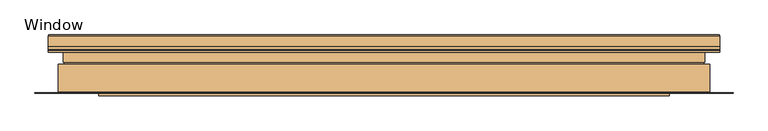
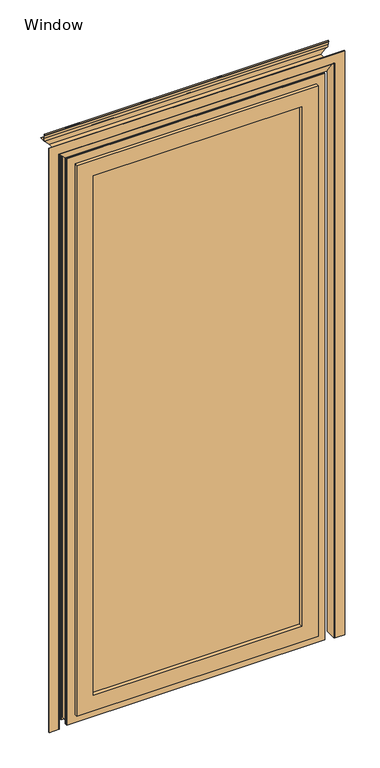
"""IFC4 building model written with IfcOpenShell, lengths in millimetres: door geometry, QO-H-QB_Door Module : Window."""

from ifc_helpers import new_model, si_unit, frame, origin, place, context, project, spatial, polyline, circle_curve, ellipse_curve, outline, extrude, faceted_brep, source, transform, mapped, element, save
from ifc_brep_helpers import plane_surface, cylinder_surface, revolved_surface, advanced_brep


def window_2f2466e1(model_context):
    return source(origin(), model_context, "Body", "SolidModel", [
        extrude(outline(polyline([(-519.485256, -85.0037561), (519.485256, -85.0037561), (519.485256, -105.0037561), (-519.485256, -105.0037561), (-519.485256, -85.0037561)])), frame((0.0, 0.0, 115.014744), z_axis=(0.0, 0.0, 1.0), x_axis=(1.0, 0.0, 0.0)), (0.0, 0.0, 1.0), 2689.970512),
        faceted_brep([(548.2021017, -67.0037561, 86.2978983), (548.2021017, -50.0037561, 86.2978983), (548.2021017, -50.0037561, 2833.7021017), (548.2021017, -67.0037561, 2833.7021017), (556.5, -50.0037561, 78.0), (556.5, -67.0037561, 78.0), (556.5, -67.0037561, 2842.0), (556.5, -50.0037561, 2842.0), (624.5, -53.8037561, 10.0), (624.5, -50.0037561, 10.0), (624.5, -50.0037561, 2910.0), (624.5, -53.8037561, 2910.0), (616.5, -57.8037561, 18.0), (616.5, -53.8037561, 18.0), (616.5, -53.8037561, 2902.0), (616.5, -57.8037561, 2902.0), (624.5, -62.1037561, 10.0), (624.5, -57.8037561, 10.0), (624.5, -57.8037561, 2910.0), (624.5, -62.1037561, 2910.0), (616.5, -97.9037561, 18.0), (616.5, -62.1037561, 18.0), (616.5, -62.1037561, 2902.0), (616.5, -97.9037561, 2902.0), (624.5, -102.2037561, 10.0), (624.5, -97.9037561, 10.0), (624.5, -97.9037561, 2910.0), (624.5, -102.2037561, 2910.0), (616.5, -106.2037561, 18.0), (616.5, -102.2037561, 18.0), (616.5, -102.2037561, 2902.0), (616.5, -106.2037561, 2902.0), (624.5, -110.0037561, 10.0), (624.5, -106.2037561, 10.0), (624.5, -106.2037561, 2910.0), (624.5, -110.0037561, 2910.0), (576.5, -98.8037561, 58.0), (576.5, -110.0037561, 58.0), (576.5, -110.0037561, 2862.0), (576.5, -98.8037561, 2862.0), (582.3127684, -62.5037561, 52.1872316), (582.3127684, -98.8037561, 52.1872316), (582.3127684, -98.8037561, 2867.8127684), (582.3127684, -62.5037561, 2867.8127684), (564.5, -114.5037561, 70.0), (564.5, -62.5037561, 70.0), (564.5, -62.5037561, 2850.0), (564.5, -114.5037561, 2850.0), (582.3127684, -110.7626496, 52.1872316), (582.3127684, -114.5037561, 52.1872316), (582.3127684, -114.5037561, 2867.8127684), (582.3127684, -110.7626496, 2867.8127684), (584.5, -124.5037561, 50.0), (584.5, -110.7626496, 50.0), (584.5, -110.7626496, 2870.0), (584.5, -124.5037561, 2870.0), (504.5, -105.0036269, 130.0), (504.5, -124.5037561, 130.0), (504.5, -124.5037561, 2790.0), (504.5, -105.0036269, 2790.0), (519.485256, -85.0036357, 115.014744), (519.485256, -105.0036269, 115.014744), (519.485256, -105.0036269, 2804.985256), (519.485256, -85.0036357, 2804.985256), (504.5, -50.0037561, 130.0), (504.5, -85.0036357, 130.0), (504.5, -85.0036357, 2790.0), (504.5, -50.0037561, 2790.0), (-548.2021017, -50.0037561, 2833.7021017), (-548.2021017, -67.0037561, 2833.7021017), (-556.5, -67.0037561, 2842.0), (-556.5, -50.0037561, 2842.0), (-624.5, -50.0037561, 2910.0), (-624.5, -53.8037561, 2910.0), (-616.5, -53.8037561, 2902.0), (-616.5, -57.8037561, 2902.0), (-624.5, -57.8037561, 2910.0), (-624.5, -62.1037561, 2910.0), (-616.5, -62.1037561, 2902.0), (-616.5, -97.9037561, 2902.0), (-624.5, -97.9037561, 2910.0), (-624.5, -102.2037561, 2910.0), (-616.5, -102.2037561, 2902.0), (-616.5, -106.2037561, 2902.0), (-624.5, -106.2037561, 2910.0), (-624.5, -110.0037561, 2910.0), (-576.5, -110.0037561, 2862.0), (-576.5, -98.8037561, 2862.0), (-582.3127684, -98.8037561, 2867.8127684), (-582.3127684, -62.5037561, 2867.8127684), (-564.5, -62.5037561, 2850.0), (-564.5, -114.5037561, 2850.0), (-582.3127684, -114.5037561, 2867.8127684), (-582.3127684, -110.7626496, 2867.8127684), (-584.5, -110.7626496, 2870.0), (-584.5, -124.5037561, 2870.0), (-504.5, -124.5037561, 2790.0), (-504.5, -105.0036269, 2790.0), (-519.485256, -105.0036269, 2804.985256), (-519.485256, -85.0036357, 2804.985256), (-504.5, -85.0036357, 2790.0), (-504.5, -50.0037561, 2790.0), (-548.2021017, -50.0037561, 86.2978983), (-548.2021017, -67.0037561, 86.2978983), (-556.5, -67.0037561, 78.0), (-556.5, -50.0037561, 78.0), (-624.5, -50.0037561, 10.0), (-624.5, -53.8037561, 10.0), (-616.5, -53.8037561, 18.0), (-616.5, -57.8037561, 18.0), (-624.5, -57.8037561, 10.0), (-624.5, -62.1037561, 10.0), (-616.5, -62.1037561, 18.0), (-616.5, -97.9037561, 18.0), (-624.5, -97.9037561, 10.0), (-624.5, -102.2037561, 10.0), (-616.5, -102.2037561, 18.0), (-616.5, -106.2037561, 18.0), (-624.5, -106.2037561, 10.0), (-624.5, -110.0037561, 10.0), (-576.5, -110.0037561, 58.0), (-576.5, -98.8037561, 58.0), (-582.3127684, -98.8037561, 52.1872316), (-582.3127684, -62.5037561, 52.1872316), (-564.5, -62.5037561, 70.0), (-564.5, -114.5037561, 70.0), (-582.3127684, -114.5037561, 52.1872316), (-582.3127684, -110.7626496, 52.1872316), (-584.5, -110.7626496, 50.0), (-584.5, -124.5037561, 50.0), (-504.5, -124.5037561, 130.0), (-504.5, -105.0036269, 130.0), (-519.485256, -105.0036269, 115.014744), (-519.485256, -85.0036357, 115.014744), (-504.5, -85.0036357, 130.0), (-504.5, -50.0037561, 130.0)], [[[0, 1, 2, 3]], [[4, 5, 6, 7]], [[8, 9, 10, 11]], [[12, 13, 14, 15]], [[16, 17, 18, 19]], [[20, 21, 22, 23]], [[24, 25, 26, 27]], [[28, 29, 30, 31]], [[32, 33, 34, 35]], [[36, 37, 38, 39]], [[40, 41, 42, 43]], [[44, 45, 46, 47]], [[48, 49, 50, 51]], [[52, 53, 54, 55]], [[56, 57, 58, 59]], [[60, 61, 62, 63]], [[64, 65, 66, 67]], [[3, 2, 68, 69]], [[7, 6, 70, 71]], [[11, 10, 72, 73]], [[15, 14, 74, 75]], [[19, 18, 76, 77]], [[23, 22, 78, 79]], [[27, 26, 80, 81]], [[31, 30, 82, 83]], [[35, 34, 84, 85]], [[39, 38, 86, 87]], [[43, 42, 88, 89]], [[47, 46, 90, 91]], [[51, 50, 92, 93]], [[55, 54, 94, 95]], [[59, 58, 96, 97]], [[63, 62, 98, 99]], [[67, 66, 100, 101]], [[69, 68, 102, 103]], [[71, 70, 104, 105]], [[73, 72, 106, 107]], [[75, 74, 108, 109]], [[77, 76, 110, 111]], [[79, 78, 112, 113]], [[81, 80, 114, 115]], [[83, 82, 116, 117]], [[85, 84, 118, 119]], [[87, 86, 120, 121]], [[89, 88, 122, 123]], [[91, 90, 124, 125]], [[93, 92, 126, 127]], [[95, 94, 128, 129]], [[97, 96, 130, 131]], [[99, 98, 132, 133]], [[101, 100, 134, 135]], [[103, 102, 1, 0]], [[5, 104, 70, 6], [3, 69, 103, 0]], [[105, 104, 5, 4]], [[9, 106, 72, 10], [7, 71, 105, 4]], [[107, 106, 9, 8]], [[11, 73, 107, 8], [13, 108, 74, 14]], [[109, 108, 13, 12]], [[17, 110, 76, 18], [15, 75, 109, 12]], [[111, 110, 17, 16]], [[19, 77, 111, 16], [21, 112, 78, 22]], [[113, 112, 21, 20]], [[25, 114, 80, 26], [23, 79, 113, 20]], [[115, 114, 25, 24]], [[27, 81, 115, 24], [29, 116, 82, 30]], [[117, 116, 29, 28]], [[33, 118, 84, 34], [31, 83, 117, 28]], [[119, 118, 33, 32]], [[35, 85, 119, 32], [37, 120, 86, 38]], [[121, 120, 37, 36]], [[41, 122, 88, 42], [39, 87, 121, 36]], [[123, 122, 41, 40]], [[43, 89, 123, 40], [45, 124, 90, 46]], [[125, 124, 45, 44]], [[49, 126, 92, 50], [47, 91, 125, 44]], [[127, 126, 49, 48]], [[53, 128, 94, 54], [51, 93, 127, 48]], [[129, 128, 53, 52]], [[55, 95, 129, 52], [57, 130, 96, 58]], [[131, 130, 57, 56]], [[61, 132, 98, 62], [59, 97, 131, 56]], [[133, 132, 61, 60]], [[63, 99, 133, 60], [65, 134, 100, 66]], [[135, 134, 65, 64]], [[1, 102, 68, 2], [67, 101, 135, 64]]]),
        advanced_brep(
        [(687.5, -24.5, 2973.0), (687.5, -24.5, 2991.5), (687.5, -30.1, 2991.5), (687.5, -30.9804507, 3008.3), (687.5, -35.9804507, 3008.3), (687.5, -35.9804507, 3004.3), (687.5, -34.974409, 3004.3), (687.5, -34.5971452, 3006.8), (687.5, -32.5971452, 3006.8), (687.5, -32.0, 2989.7), (687.5, -26.3, 2989.7), (687.5, -26.3, 2973.0), (-687.5, -26.3, 2989.7), (-687.5, -32.0, 2989.7), (-687.5, -32.5971452, 3006.8), (-687.5, -34.5971452, 3006.8), (-687.5, -34.974409, 3004.3), (-687.5, -35.9804507, 3004.3), (-687.5, -35.9804507, 3008.3), (-687.5, -30.9804507, 3008.3), (-687.5, -30.1, 2991.5), (-687.5, -24.5, 2991.5), (-687.5, -24.5, 2973.0), (-687.5, -26.3, 2973.0), (-654.4523452, -75.0037405, 2939.9523452), (-654.4523452, -84.0037561, 2939.9523452), (654.4523452, -84.0037561, 2939.9523452), (654.4523452, -75.0037405, 2939.9523452), (-658.0018295, -84.0037561, 2943.5018295), (658.0018295, -84.0037561, 2943.5018295), (-658.0018295, -82.8037561, 2943.5018295), (658.0018295, -82.8037561, 2943.5018295), (-659.5018295, -82.8037561, 2945.0018295), (659.5018295, -82.8037561, 2945.0018295), (-659.5018295, -89.5037561, 2945.0018295), (659.5018295, -89.5037561, 2945.0018295), (-658.0018295, -89.5037561, 2943.5018295), (658.0018295, -89.5037561, 2943.5018295), (-658.0018295, -85.7037561, 2943.5018295), (658.0018295, -85.7037561, 2943.5018295), (-654.7018295, -85.7037561, 2940.2018295), (654.7018295, -85.7037561, 2940.2018295), (-654.7018295, -108.3037561, 2940.2018295), (654.7018295, -108.3037561, 2940.2018295), (-658.0018295, -108.3037561, 2943.5018295), (658.0018295, -108.3037561, 2943.5018295), (-658.0018295, -105.5037561, 2943.5018295), (658.0018295, -105.5037561, 2943.5018295), (-659.5018295, -105.5037561, 2945.0018295), (659.5018295, -105.5037561, 2945.0018295), (-659.5018295, -110.0037561, 2945.0018295), (659.5018295, -110.0037561, 2945.0018295), (-631.5018295, -110.0037561, 2917.0018295), (631.5018295, -110.0037561, 2917.0018295), (-631.5018295, -105.5037561, 2917.0018295), (631.5018295, -105.5037561, 2917.0018295), (-633.0018295, -105.5037561, 2918.5018295), (633.0018295, -105.5037561, 2918.5018295), (-633.0018295, -108.3037561, 2918.5018295), (633.0018295, -108.3037561, 2918.5018295), (-636.3018295, -108.3037561, 2921.8018295), (636.3018295, -108.3037561, 2921.8018295), (-636.3018295, -85.7037561, 2921.8018295), (636.3018295, -85.7037561, 2921.8018295), (-633.0018295, -85.7037561, 2918.5018295), (633.0018295, -85.7037561, 2918.5018295), (-633.0018295, -89.5037561, 2918.5018295), (633.0018295, -89.5037561, 2918.5018295), (-631.5018295, -89.5037561, 2917.0018295), (631.5018295, -89.5037561, 2917.0018295), (-631.5018295, -82.8037561, 2917.0018295), (631.5018295, -82.8037561, 2917.0018295), (-633.0018295, -82.8037561, 2918.5018295), (633.0018295, -82.8037561, 2918.5018295), (-633.0018295, -84.0037561, 2918.5018295), (633.0018295, -84.0037561, 2918.5018295), (-636.5513139, -84.0037561, 2922.0513139), (636.5513139, -84.0037561, 2922.0513139), (-636.5513139, -75.0037405, 2922.0513139), (636.5513139, -75.0037405, 2922.0513139), (-633.0513133, -75.0037405, 2918.5513133), (633.0513133, -75.0037405, 2918.5513133), (-633.0513133, -76.5037405, 2918.5513133), (633.0513133, -76.5037405, 2918.5513133), (-631.5513133, -76.5037405, 2917.0513133), (631.5513133, -76.5037405, 2917.0513133), (-631.5513133, -72.6037405, 2917.0513133), (631.5513133, -72.6037405, 2917.0513133), (-633.0513133, -72.6037405, 2918.5513133), (633.0513133, -72.6037405, 2918.5513133), (-633.0513133, -73.8037405, 2918.5513133), (633.0513133, -73.8037405, 2918.5513133), (-636.5513133, -73.8037405, 2922.0513133), (636.5513133, -73.8037405, 2922.0513133), (-636.5513133, -65.7037405, 2922.0513133), (636.5513133, -65.7037405, 2922.0513133), (-633.0513133, -65.7037405, 2918.5513133), (633.0513133, -65.7037405, 2918.5513133), (-633.0513133, -66.9037405, 2918.5513133), (633.0513133, -66.9037405, 2918.5513133), (-631.5513133, -66.9037405, 2917.0513133), (631.5513133, -66.9037405, 2917.0513133), (-631.5513133, -63.0037405, 2917.0513133), (631.5513133, -63.0037405, 2917.0513133), (-633.0513133, -63.0037405, 2918.5513133), (633.0513133, -63.0037405, 2918.5513133), (-633.0513133, -64.5037405, 2918.5513133), (633.0513133, -64.5037405, 2918.5513133), (-636.5, -64.5037405, 2922.0), (636.5, -64.5037405, 2922.0), (-636.5, -49.6, 2922.0), (636.5, -49.6, 2922.0), (-639.8, -49.6, 2925.3), (639.8, -49.6, 2925.3), (-639.8, -51.0, 2925.3), (639.8, -51.0, 2925.3), (-637.9, -51.0, 2923.4), (637.9, -51.0, 2923.4), (-637.9, -54.0, 2923.4), (637.9, -54.0, 2923.4), (-643.3, -54.0, 2928.8), (643.3, -54.0, 2928.8), (-643.3, -43.5, 2928.8), (643.3, -43.5, 2928.8), (-629.5, -43.5, 2915.0), (629.5, -43.5, 2915.0), (-629.5, -2.0, 2915.0), (629.5, -2.0, 2915.0), (-631.5, 0.0, 2917.0), (631.5, 0.0, 2917.0), (-685.5, 0.0, 2971.0), (685.5, 0.0, 2971.0), (-687.5, -2.0, 2973.0), (687.5, -2.0, 2973.0), (-685.5, -26.3, 2971.0), (685.5, -26.3, 2971.0), (-685.5, -22.4, 2971.0), (685.5, -22.4, 2971.0), (-657.3, -22.4, 2942.8), (657.3, -22.4, 2942.8), (-657.3, -55.4999986, 2942.8), (657.3, -55.4999986, 2942.8), (-654.4523459, -55.4999986, 2939.9523459), (654.4523459, -55.4999986, 2939.9523459), (-654.4523459, -64.5037405, 2939.9523459), (654.4523459, -64.5037405, 2939.9523459), (-657.9523458, -64.5037405, 2943.4523458), (657.9523458, -64.5037405, 2943.4523458), (-657.9523458, -63.0037405, 2943.4523458), (657.9523458, -63.0037405, 2943.4523458), (-659.4523458, -63.0037405, 2944.9523458), (659.4523458, -63.0037405, 2944.9523458), (-659.4523458, -66.9037405, 2944.9523458), (659.4523458, -66.9037405, 2944.9523458), (-657.9523458, -66.9037405, 2943.4523458), (657.9523458, -66.9037405, 2943.4523458), (-657.9523458, -65.7037405, 2943.4523458), (657.9523458, -65.7037405, 2943.4523458), (-654.4523458, -65.7037405, 2939.9523458), (654.4523458, -65.7037405, 2939.9523458), (-654.4523458, -73.8037405, 2939.9523458), (654.4523458, -73.8037405, 2939.9523458), (-657.9523458, -73.8037405, 2943.4523458), (657.9523458, -73.8037405, 2943.4523458), (-657.9523458, -72.6037405, 2943.4523458), (657.9523458, -72.6037405, 2943.4523458), (-659.4523458, -72.6037405, 2944.9523458), (659.4523458, -72.6037405, 2944.9523458), (-659.4523458, -76.5037405, 2944.9523458), (659.4523458, -76.5037405, 2944.9523458), (-657.9523458, -76.5037405, 2943.4523458), (657.9523458, -76.5037405, 2943.4523458), (-657.9523458, -75.0037405, 2943.4523458), (657.9523458, -75.0037405, 2943.4523458), (-657.3, -1.5, 2942.8), (-657.3, -20.7, 2942.8), (657.3, -20.7, 2942.8), (657.3, -1.5, 2942.8), (-686.0, -20.7, 2971.5), (686.0, -20.7, 2971.5), (-686.0, -1.5, 2971.5), (686.0, -1.5, 2971.5), (-645.3, -41.5, 2930.8), (-645.3, -54.0, 2930.8), (645.3, -54.0, 2930.8), (645.3, -41.5, 2930.8), (-655.6, -54.0, 2941.1), (655.6, -54.0, 2941.1), (-655.6, -1.5, 2941.1), (655.6, -1.5, 2941.1), (-631.2, -1.5, 2916.7), (631.2, -1.5, 2916.7), (-631.2, -41.5, 2916.7), (631.2, -41.5, 2916.7), (-638.2018295, -108.3037561, 2923.7018295), (-652.8018295, -108.3037561, 2938.3018295), (652.8018295, -108.3037561, 2938.3018295), (638.2018295, -108.3037561, 2923.7018295), (-652.8018295, -85.7037561, 2938.3018295), (652.8018295, -85.7037561, 2938.3018295), (-638.2018295, -85.7037561, 2923.7018295), (638.2018295, -85.7037561, 2923.7018295)],
        [
            (0, 1),
            (1, 2),
            (2, 3),
            (3, 4),
            (4, 5),
            (5, 6),
            (6, 7),
            (7, 8),
            (8, 9),
            (9, 10),
            (10, 11),
            (11, 0),
            (12, 13),
            (13, 14),
            (14, 15),
            (15, 16),
            (16, 17),
            (17, 18),
            (18, 19),
            (19, 20),
            (20, 21),
            (21, 22),
            (22, 23),
            (23, 12),
            (24, 25),
            (25, 26),
            (26, 27),
            (27, 24),
            (25, 28),
            (28, 29),
            (29, 26),
            (28, 30),
            (30, 31),
            (31, 29),
            (30, 32),
            (32, 33),
            (33, 31),
            (32, 34),
            (34, 35),
            (35, 33),
            (34, 36),
            (36, 37),
            (37, 35),
            (36, 38),
            (38, 39),
            (39, 37),
            (38, 40),
            (40, 41),
            (41, 39),
            (40, 42),
            (42, 43),
            (43, 41),
            (42, 44),
            (44, 45),
            (45, 43),
            (44, 46),
            (46, 47),
            (47, 45),
            (46, 48),
            (48, 49),
            (49, 47),
            (48, 50),
            (50, 51),
            (51, 49),
            (50, 52),
            (52, 53),
            (53, 51),
            (52, 54),
            (54, 55),
            (55, 53),
            (54, 56),
            (56, 57),
            (57, 55),
            (56, 58),
            (58, 59),
            (59, 57),
            (58, 60),
            (60, 61),
            (61, 59),
            (60, 62),
            (62, 63),
            (63, 61),
            (62, 64),
            (64, 65),
            (65, 63),
            (64, 66),
            (66, 67),
            (67, 65),
            (66, 68),
            (68, 69),
            (69, 67),
            (68, 70),
            (70, 71),
            (71, 69),
            (70, 72),
            (72, 73),
            (73, 71),
            (72, 74),
            (74, 75),
            (75, 73),
            (74, 76),
            (76, 77),
            (77, 75),
            (76, 78),
            (78, 79),
            (79, 77),
            (78, 80),
            (80, 81),
            (81, 79),
            (80, 82),
            (82, 83),
            (83, 81),
            (82, 84),
            (84, 85),
            (85, 83),
            (84, 86),
            (86, 87),
            (87, 85),
            (86, 88),
            (88, 89),
            (89, 87),
            (88, 90),
            (90, 91),
            (91, 89),
            (90, 92),
            (92, 93),
            (93, 91),
            (92, 94),
            (94, 95),
            (95, 93),
            (94, 96),
            (96, 97),
            (97, 95),
            (96, 98),
            (98, 99),
            (99, 97),
            (98, 100),
            (100, 101),
            (101, 99),
            (100, 102),
            (102, 103),
            (103, 101),
            (102, 104),
            (104, 105),
            (105, 103),
            (104, 106),
            (106, 107),
            (107, 105),
            (106, 108),
            (108, 109),
            (109, 107),
            (108, 110),
            (110, 111),
            (111, 109),
            (110, 112),
            (112, 113),
            (113, 111),
            (112, 114),
            (114, 115),
            (115, 113),
            (114, 116),
            (116, 117),
            (117, 115),
            (116, 118),
            (118, 119),
            (119, 117),
            (118, 120),
            (120, 121),
            (121, 119),
            (120, 122),
            (122, 123),
            (123, 121),
            (122, 124),
            (124, 125),
            (125, 123),
            (124, 126),
            (126, 127),
            (127, 125),
            (126, 128, ellipse_curve(frame((-631.5, -2.0, 2917.0), z_axis=(0.7071067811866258, 0.0, 0.7071067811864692), x_axis=(0.7071067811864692, 0.0, -0.7071067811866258)), 2.8284271, 2.0)),
            (128, 129),
            (129, 127, ellipse_curve(frame((631.5, -2.0, 2917.0), z_axis=(-0.7071067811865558, 0.0, 0.7071067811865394), x_axis=(0.7071067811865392, 0.0, 0.7071067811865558)), 2.8284271, 2.0)),
            (128, 130),
            (130, 131),
            (131, 129),
            (132, 133),
            (133, 131, ellipse_curve(frame((685.5, -2.0, 2971.0), z_axis=(-0.7071067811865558, 0.0, 0.7071067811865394), x_axis=(0.7071067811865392, 0.0, 0.7071067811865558)), 2.8284271, 2.0)),
            (130, 132, ellipse_curve(frame((-685.5, -2.0, 2971.0), z_axis=(0.7071067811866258, 0.0, 0.7071067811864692), x_axis=(0.7071067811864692, 0.0, -0.7071067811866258)), 2.8284271, 2.0)),
            (132, 22),
            (22, 0),
            (0, 133),
            (21, 1),
            (20, 2),
            (19, 3),
            (18, 4),
            (17, 5),
            (16, 6),
            (15, 7),
            (14, 8),
            (13, 9),
            (12, 10),
            (23, 134),
            (134, 135),
            (135, 11),
            (134, 136),
            (136, 137),
            (137, 135),
            (136, 138),
            (138, 139),
            (139, 137),
            (138, 140),
            (140, 141),
            (141, 139),
            (140, 142),
            (142, 143),
            (143, 141),
            (142, 144),
            (144, 145),
            (145, 143),
            (144, 146),
            (146, 147),
            (147, 145),
            (146, 148),
            (148, 149),
            (149, 147),
            (148, 150),
            (150, 151),
            (151, 149),
            (150, 152),
            (152, 153),
            (153, 151),
            (152, 154),
            (154, 155),
            (155, 153),
            (154, 156),
            (156, 157),
            (157, 155),
            (156, 158),
            (158, 159),
            (159, 157),
            (158, 160),
            (160, 161),
            (161, 159),
            (160, 162),
            (162, 163),
            (163, 161),
            (162, 164),
            (164, 165),
            (165, 163),
            (164, 166),
            (166, 167),
            (167, 165),
            (166, 168),
            (168, 169),
            (169, 167),
            (168, 170),
            (170, 171),
            (171, 169),
            (170, 172),
            (172, 173),
            (173, 171),
            (172, 24),
            (27, 173),
            (174, 175),
            (175, 176),
            (176, 177),
            (177, 174),
            (175, 178),
            (178, 179),
            (179, 176),
            (178, 180),
            (180, 181),
            (181, 179),
            (180, 174),
            (177, 181),
            (182, 183),
            (183, 184),
            (184, 185),
            (185, 182),
            (183, 186),
            (186, 187),
            (187, 184),
            (186, 188),
            (188, 189),
            (189, 187),
            (188, 190),
            (190, 191),
            (191, 189),
            (190, 192),
            (192, 193),
            (193, 191),
            (192, 182),
            (185, 193),
            (194, 195),
            (195, 196),
            (196, 197),
            (197, 194),
            (195, 198),
            (198, 199),
            (199, 196),
            (198, 200),
            (200, 201),
            (201, 199),
            (200, 194),
            (197, 201),
        ],
        [
            plane_surface(frame((687.5, 0.0, 3000.0), z_axis=(1.0, 0.0, 0.0), x_axis=(0.0, -1.0, 0.0))),
            plane_surface(frame((-687.5, 0.0, 3000.0), z_axis=(-1.0, 0.0, 0.0), x_axis=(0.0, -1.0, 0.0))),
            plane_surface(frame((687.5, -75.0037405, 2939.9523452), z_axis=(0.0, 0.0, 1.0), x_axis=(-1.0, 0.0, 0.0))),
            plane_surface(frame((687.5, -84.0037561, 2939.9523452), z_axis=(0.0, 1.0, 0.0), x_axis=(-1.0, 0.0, 0.0))),
            plane_surface(frame((687.5, -84.0037561, 2943.5018295), z_axis=(0.0, 0.0, -1.0), x_axis=(-1.0, 0.0, 0.0))),
            plane_surface(frame((687.5, -82.8037561, 2943.5018295), z_axis=(0.0, 1.0, 0.0), x_axis=(-1.0, 0.0, 0.0))),
            plane_surface(frame((687.5, -82.8037561, 2945.0018295), z_axis=(0.0, 0.0, 1.0), x_axis=(-1.0, 0.0, 0.0))),
            plane_surface(frame((687.5, -89.5037561, 2945.0018295), z_axis=(0.0, -1.0, 0.0), x_axis=(-1.0, 0.0, 0.0))),
            plane_surface(frame((687.5, -89.5037561, 2943.5018295), z_axis=(0.0, 0.0, -1.0), x_axis=(-1.0, 0.0, 0.0))),
            plane_surface(frame((687.5, -85.7037561, 2943.5018295), z_axis=(0.0, -1.0, 0.0), x_axis=(-1.0, 0.0, 0.0))),
            plane_surface(frame((687.5, -85.7037561, 2940.2018295), z_axis=(0.0, 0.0, 1.0), x_axis=(-1.0, 0.0, 0.0))),
            plane_surface(frame((687.5, -108.3037561, 2940.2018295), z_axis=(0.0, 1.0, 0.0), x_axis=(-1.0, 0.0, 0.0))),
            plane_surface(frame((687.5, -108.3037561, 2943.5018295), z_axis=(0.0, 0.0, -1.0), x_axis=(-1.0, 0.0, 0.0))),
            plane_surface(frame((687.5, -105.5037561, 2943.5018295), z_axis=(0.0, 1.0, 0.0), x_axis=(-1.0, 0.0, 0.0))),
            plane_surface(frame((687.5, -105.5037561, 2945.0018295), z_axis=(0.0, 0.0, 1.0), x_axis=(-1.0, 0.0, 0.0))),
            plane_surface(frame((687.5, -110.0037561, 2945.0018295), z_axis=(0.0, -1.0, 0.0), x_axis=(-1.0, 0.0, 0.0))),
            plane_surface(frame((687.5, -110.0037561, 2917.0018295), z_axis=(0.0, 0.0, -1.0), x_axis=(-1.0, 0.0, 0.0))),
            plane_surface(frame((687.5, -105.5037561, 2917.0018295), z_axis=(0.0, 1.0, 0.0), x_axis=(-1.0, 0.0, 0.0))),
            plane_surface(frame((687.5, -105.5037561, 2918.5018295), z_axis=(0.0, 0.0, 1.0), x_axis=(-1.0, 0.0, 0.0))),
            plane_surface(frame((687.5, -108.3037561, 2918.5018295), z_axis=(0.0, 1.0, 0.0), x_axis=(-1.0, 0.0, 0.0))),
            plane_surface(frame((687.5, -108.3037561, 2921.8018295), z_axis=(0.0, 0.0, -1.0), x_axis=(-1.0, 0.0, 0.0))),
            plane_surface(frame((687.5, -85.7037561, 2921.8018295), z_axis=(0.0, -1.0, 0.0), x_axis=(-1.0, 0.0, 0.0))),
            plane_surface(frame((687.5, -85.7037561, 2918.5018295), z_axis=(0.0, 0.0, 1.0), x_axis=(-1.0, 0.0, 0.0))),
            plane_surface(frame((687.5, -89.5037561, 2918.5018295), z_axis=(0.0, -1.0, 0.0), x_axis=(-1.0, 0.0, 0.0))),
            plane_surface(frame((687.5, -89.5037561, 2917.0018295), z_axis=(0.0, 0.0, -1.0), x_axis=(-1.0, 0.0, 0.0))),
            plane_surface(frame((687.5, -82.8037561, 2917.0018295), z_axis=(0.0, 1.0, 0.0), x_axis=(-1.0, 0.0, 0.0))),
            plane_surface(frame((687.5, -82.8037561, 2918.5018295), z_axis=(0.0, 0.0, 1.0), x_axis=(-1.0, 0.0, 0.0))),
            plane_surface(frame((687.5, -84.0037561, 2918.5018295), z_axis=(0.0, 1.0, 0.0), x_axis=(-1.0, 0.0, 0.0))),
            plane_surface(frame((687.5, -84.0037561, 2922.0513139), z_axis=(0.0, 0.0, -1.0), x_axis=(-1.0, 0.0, 0.0))),
            plane_surface(frame((687.5, -75.0037405, 2922.0513139), z_axis=(0.0, -1.0, 0.0), x_axis=(-1.0, 0.0, 0.0))),
            plane_surface(frame((687.5, -75.0037405, 2918.5513133), z_axis=(0.0, 0.0, 1.0), x_axis=(-1.0, 0.0, 0.0))),
            plane_surface(frame((687.5, -76.5037405, 2918.5513133), z_axis=(0.0, -1.0, 0.0), x_axis=(-1.0, 0.0, 0.0))),
            plane_surface(frame((687.5, -76.5037405, 2917.0513133), z_axis=(0.0, 0.0, -1.0), x_axis=(-1.0, 0.0, 0.0))),
            plane_surface(frame((687.5, -72.6037405, 2917.0513133), z_axis=(0.0, 1.0, 0.0), x_axis=(-1.0, 0.0, 0.0))),
            plane_surface(frame((687.5, -72.6037405, 2918.5513133), z_axis=(0.0, 0.0, 1.0), x_axis=(-1.0, 0.0, 0.0))),
            plane_surface(frame((687.5, -73.8037405, 2918.5513133), z_axis=(0.0, 1.0, 0.0), x_axis=(-1.0, 0.0, 0.0))),
            plane_surface(frame((687.5, -73.8037405, 2922.0513133), z_axis=(0.0, 0.0, -1.0), x_axis=(-1.0, 0.0, 0.0))),
            plane_surface(frame((687.5, -65.7037405, 2922.0513133), z_axis=(0.0, -1.0, 0.0), x_axis=(-1.0, 0.0, 0.0))),
            plane_surface(frame((687.5, -65.7037405, 2918.5513133), z_axis=(0.0, 0.0, 1.0), x_axis=(-1.0, 0.0, 0.0))),
            plane_surface(frame((687.5, -66.9037405, 2918.5513133), z_axis=(0.0, -1.0, 0.0), x_axis=(-1.0, 0.0, 0.0))),
            plane_surface(frame((687.5, -66.9037405, 2917.0513133), z_axis=(0.0, 0.0, -1.0), x_axis=(-1.0, 0.0, 0.0))),
            plane_surface(frame((687.5, -63.0037405, 2917.0513133), z_axis=(0.0, 1.0, 0.0), x_axis=(-1.0, 0.0, 0.0))),
            plane_surface(frame((687.5, -63.0037405, 2918.5513133), z_axis=(0.0, 0.0, 1.0), x_axis=(-1.0, 0.0, 0.0))),
            plane_surface(frame((687.5, -64.5037405, 2918.5513133), z_axis=(0.0, 1.0, 0.0), x_axis=(-1.0, 0.0, 0.0))),
            plane_surface(frame((687.5, -64.5037405, 2922.0), z_axis=(0.0, 0.0, -1.0), x_axis=(-1.0, 0.0, 0.0))),
            plane_surface(frame((687.5, -49.6, 2922.0), z_axis=(0.0, 1.0, 0.0), x_axis=(-1.0, 0.0, 0.0))),
            plane_surface(frame((687.5, -49.6, 2925.3), z_axis=(0.0, 0.0, 1.0), x_axis=(-1.0, 0.0, 0.0))),
            plane_surface(frame((687.5, -51.0, 2925.3), z_axis=(0.0, -1.0, 0.0), x_axis=(-1.0, 0.0, 0.0))),
            plane_surface(frame((687.5, -51.0, 2923.4), z_axis=(0.0, 0.0, 1.0), x_axis=(-1.0, 0.0, 0.0))),
            plane_surface(frame((687.5, -54.0, 2923.4), z_axis=(0.0, 1.0, 0.0), x_axis=(-1.0, 0.0, 0.0))),
            plane_surface(frame((687.5, -54.0, 2928.8), z_axis=(0.0, 0.0, -1.0), x_axis=(-1.0, 0.0, 0.0))),
            plane_surface(frame((687.5, -43.5, 2928.8), z_axis=(0.0, -1.0, 0.0), x_axis=(-1.0, 0.0, 0.0))),
            plane_surface(frame((687.5, -43.5, 2915.0), z_axis=(0.0, 0.0, -1.0), x_axis=(-1.0, 0.0, 0.0))),
            cylinder_surface(frame((687.5, -2.0, 2917.0), z_axis=(1.0, 0.0, 0.0), x_axis=(0.0, -1.0, 0.0)), 2.0),
            plane_surface(frame((687.5, 0.0, 2917.0), z_axis=(0.0, 1.0, 0.0), x_axis=(-1.0, 0.0, 0.0))),
            cylinder_surface(frame((687.5, -2.0, 2971.0), z_axis=(1.0, 0.0, 0.0), x_axis=(0.0, -1.0, 0.0)), 2.0),
            plane_surface(frame((687.5, -2.0, 2973.0), z_axis=(0.0, 0.0, 1.0), x_axis=(-1.0, 0.0, 0.0))),
            plane_surface(frame((687.5, -24.5, 2973.0), z_axis=(0.0, 1.0, 0.0), x_axis=(-1.0, 0.0, 0.0))),
            plane_surface(frame((687.5, -24.5, 2991.5), z_axis=(0.0, 0.0, 1.0), x_axis=(-1.0, 0.0, 0.0))),
            plane_surface(frame((687.5, -30.1, 2991.5), z_axis=(0.0, 0.9986295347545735, 0.05233595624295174), x_axis=(-1.0, 0.0, 0.0))),
            plane_surface(frame((687.5, -30.9804507, 3008.3), z_axis=(0.0, 0.0, 1.0), x_axis=(-1.0, 0.0, 0.0))),
            plane_surface(frame((687.5, -35.9804507, 3008.3), z_axis=(0.0, -1.0, 0.0), x_axis=(-1.0, 0.0, 0.0))),
            plane_surface(frame((687.5, -35.9804507, 3004.3), z_axis=(0.0, 0.0, -1.0), x_axis=(-1.0, 0.0, 0.0))),
            plane_surface(frame((687.5, -34.974409, 3004.3), z_axis=(0.0, 0.9888046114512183, -0.14921608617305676), x_axis=(-1.0, 0.0, 0.0))),
            plane_surface(frame((687.5, -34.5971452, 3006.8), z_axis=(0.0, 0.0, -1.0), x_axis=(-1.0, 0.0, 0.0))),
            plane_surface(frame((687.5, -32.5971452, 3006.8), z_axis=(0.0, -0.9993908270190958, -0.0348994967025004), x_axis=(-1.0, 0.0, 0.0))),
            plane_surface(frame((687.5, -32.0, 2989.7), z_axis=(0.0, 0.0, -1.0), x_axis=(-1.0, 0.0, 0.0))),
            plane_surface(frame((687.5, -26.3, 2989.7), z_axis=(0.0, -1.0, 0.0), x_axis=(-1.0, 0.0, 0.0))),
            plane_surface(frame((687.5, -26.3, 2971.0), z_axis=(0.0, 0.0, -1.0), x_axis=(-1.0, 0.0, 0.0))),
            plane_surface(frame((687.5, -22.4, 2971.0), z_axis=(0.0, -1.0, 0.0), x_axis=(-1.0, 0.0, 0.0))),
            plane_surface(frame((687.5, -22.4, 2942.8), z_axis=(0.0, 0.0, 1.0), x_axis=(-1.0, 0.0, 0.0))),
            plane_surface(frame((687.5, -55.4999986, 2942.8), z_axis=(0.0, -1.0, 0.0), x_axis=(-1.0, 0.0, 0.0))),
            plane_surface(frame((687.5, -55.4999986, 2939.9523459), z_axis=(0.0, 0.0, 1.0), x_axis=(-1.0, 0.0, 0.0))),
            plane_surface(frame((687.5, -64.5037405, 2939.9523459), z_axis=(0.0, 1.0, 0.0), x_axis=(-1.0, 0.0, 0.0))),
            plane_surface(frame((687.5, -64.5037405, 2943.4523458), z_axis=(0.0, 0.0, -1.0), x_axis=(-1.0, 0.0, 0.0))),
            plane_surface(frame((687.5, -63.0037405, 2943.4523458), z_axis=(0.0, 1.0, 0.0), x_axis=(-1.0, 0.0, 0.0))),
            plane_surface(frame((687.5, -63.0037405, 2944.9523458), z_axis=(0.0, 0.0, 1.0), x_axis=(-1.0, 0.0, 0.0))),
            plane_surface(frame((687.5, -66.9037405, 2944.9523458), z_axis=(0.0, -1.0, 0.0), x_axis=(-1.0, 0.0, 0.0))),
            plane_surface(frame((687.5, -66.9037405, 2943.4523458), z_axis=(0.0, 0.0, -1.0), x_axis=(-1.0, 0.0, 0.0))),
            plane_surface(frame((687.5, -65.7037405, 2943.4523458), z_axis=(0.0, -1.0, 0.0), x_axis=(-1.0, 0.0, 0.0))),
            plane_surface(frame((687.5, -65.7037405, 2939.9523458), z_axis=(0.0, 0.0, 1.0), x_axis=(-1.0, 0.0, 0.0))),
            plane_surface(frame((687.5, -73.8037405, 2939.9523458), z_axis=(0.0, 1.0, 0.0), x_axis=(-1.0, 0.0, 0.0))),
            plane_surface(frame((687.5, -73.8037405, 2943.4523458), z_axis=(0.0, 0.0, -1.0), x_axis=(-1.0, 0.0, 0.0))),
            plane_surface(frame((687.5, -72.6037405, 2943.4523458), z_axis=(0.0, 1.0, 0.0), x_axis=(-1.0, 0.0, 0.0))),
            plane_surface(frame((687.5, -72.6037405, 2944.9523458), z_axis=(0.0, 0.0, 1.0), x_axis=(-1.0, 0.0, 0.0))),
            plane_surface(frame((687.5, -76.5037405, 2944.9523458), z_axis=(0.0, -1.0, 0.0), x_axis=(-1.0, 0.0, 0.0))),
            plane_surface(frame((687.5, -76.5037405, 2943.4523458), z_axis=(0.0, 0.0, -1.0), x_axis=(-1.0, 0.0, 0.0))),
            plane_surface(frame((687.5, -75.0037405, 2943.4523458), z_axis=(0.0, -1.0, 0.0), x_axis=(-1.0, 0.0, 0.0))),
            plane_surface(frame((687.5, -1.5, 2942.8), z_axis=(0.0, 0.0, 1.0), x_axis=(-1.0, 0.0, 0.0))),
            plane_surface(frame((687.5, -20.7, 2942.8), z_axis=(0.0, 1.0, 0.0), x_axis=(-1.0, 0.0, 0.0))),
            plane_surface(frame((687.5, -20.7, 2971.5), z_axis=(0.0, 0.0, -1.0), x_axis=(-1.0, 0.0, 0.0))),
            plane_surface(frame((687.5, -1.5, 2971.5), z_axis=(0.0, -1.0, 0.0), x_axis=(-1.0, 0.0, 0.0))),
            plane_surface(frame((687.5, -41.5, 2930.8), z_axis=(0.0, 0.0, 1.0), x_axis=(-1.0, 0.0, 0.0))),
            plane_surface(frame((687.5, -54.0, 2930.8), z_axis=(0.0, 1.0, 0.0), x_axis=(-1.0, 0.0, 0.0))),
            plane_surface(frame((687.5, -54.0, 2941.1), z_axis=(0.0, 0.0, -1.0), x_axis=(-1.0, 0.0, 0.0))),
            plane_surface(frame((687.5, -1.5, 2941.1), z_axis=(0.0, -1.0, 0.0), x_axis=(-1.0, 0.0, 0.0))),
            plane_surface(frame((687.5, -1.5, 2916.7), z_axis=(0.0, 0.0, 1.0), x_axis=(-1.0, 0.0, 0.0))),
            plane_surface(frame((687.5, -41.5, 2916.7), z_axis=(0.0, 1.0, 0.0), x_axis=(-1.0, 0.0, 0.0))),
            plane_surface(frame((687.5, -108.3037561, 2923.7018295), z_axis=(0.0, 1.0, 0.0), x_axis=(-1.0, 0.0, 0.0))),
            plane_surface(frame((687.5, -108.3037561, 2938.3018295), z_axis=(0.0, 0.0, -1.0), x_axis=(-1.0, 0.0, 0.0))),
            plane_surface(frame((687.5, -85.7037561, 2938.3018295), z_axis=(0.0, -1.0, 0.0), x_axis=(-1.0, 0.0, 0.0))),
            plane_surface(frame((687.5, -85.7037561, 2923.7018295), z_axis=(0.0, 0.0, 1.0), x_axis=(-1.0, 0.0, 0.0))),
            plane_surface(frame((-629.5, -120.0, 2915.0), z_axis=(-0.7071067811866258, 0.0, -0.7071067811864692), x_axis=(0.0, 1.0, 0.0))),
            plane_surface(frame((687.5294844, -180.0, 2973.0294844), z_axis=(0.7071067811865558, 0.0, -0.7071067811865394), x_axis=(0.0, 1.0, 0.0))),
        ],
        [
            (0, [[1, 2, 3, 4, 5, 6, 7, 8, 9, 10, 11, 12]]),
            (1, [[13, 14, 15, 16, 17, 18, 19, 20, 21, 22, 23, 24]]),
            (2, [[25, 26, 27, 28]]),
            (3, [[29, 30, 31, -26]]),
            (4, [[32, 33, 34, -30]]),
            (5, [[35, 36, 37, -33]]),
            (6, [[38, 39, 40, -36]]),
            (7, [[41, 42, 43, -39]]),
            (8, [[44, 45, 46, -42]]),
            (9, [[47, 48, 49, -45]]),
            (10, [[50, 51, 52, -48]]),
            (11, [[53, 54, 55, -51]]),
            (12, [[56, 57, 58, -54]]),
            (13, [[59, 60, 61, -57]]),
            (14, [[62, 63, 64, -60]]),
            (15, [[65, 66, 67, -63]]),
            (16, [[68, 69, 70, -66]]),
            (17, [[71, 72, 73, -69]]),
            (18, [[74, 75, 76, -72]]),
            (19, [[77, 78, 79, -75]]),
            (20, [[80, 81, 82, -78]]),
            (21, [[83, 84, 85, -81]]),
            (22, [[86, 87, 88, -84]]),
            (23, [[89, 90, 91, -87]]),
            (24, [[92, 93, 94, -90]]),
            (25, [[95, 96, 97, -93]]),
            (26, [[98, 99, 100, -96]]),
            (27, [[101, 102, 103, -99]]),
            (28, [[104, 105, 106, -102]]),
            (29, [[107, 108, 109, -105]]),
            (30, [[110, 111, 112, -108]]),
            (31, [[113, 114, 115, -111]]),
            (32, [[116, 117, 118, -114]]),
            (33, [[119, 120, 121, -117]]),
            (34, [[122, 123, 124, -120]]),
            (35, [[125, 126, 127, -123]]),
            (36, [[128, 129, 130, -126]]),
            (37, [[131, 132, 133, -129]]),
            (38, [[134, 135, 136, -132]]),
            (39, [[137, 138, 139, -135]]),
            (40, [[140, 141, 142, -138]]),
            (41, [[143, 144, 145, -141]]),
            (42, [[146, 147, 148, -144]]),
            (43, [[149, 150, 151, -147]]),
            (44, [[152, 153, 154, -150]]),
            (45, [[155, 156, 157, -153]]),
            (46, [[158, 159, 160, -156]]),
            (47, [[161, 162, 163, -159]]),
            (48, [[164, 165, 166, -162]]),
            (49, [[167, 168, 169, -165]]),
            (50, [[170, 171, 172, -168]]),
            (51, [[173, 174, 175, -171]]),
            (52, [[176, 177, 178, -174]]),
            (53, [[179, 180, 181, -177]]),
            (54, [[182, 183, 184, -180]]),
            (55, [[185, 186, -183, 187]]),
            (56, [[-185, 188, 189, 190]]),
            (57, [[-1, -189, -22, 191]]),
            (58, [[-2, -191, -21, 192]]),
            (59, [[-3, -192, -20, 193]]),
            (60, [[-4, -193, -19, 194]]),
            (61, [[-5, -194, -18, 195]]),
            (62, [[-6, -195, -17, 196]]),
            (63, [[-7, -196, -16, 197]]),
            (64, [[-8, -197, -15, 198]]),
            (65, [[-9, -198, -14, 199]]),
            (66, [[-10, -199, -13, 200]]),
            (67, [[-200, -24, 201, 202, 203, -11]]),
            (68, [[204, 205, 206, -202]]),
            (69, [[207, 208, 209, -205]]),
            (70, [[210, 211, 212, -208]]),
            (71, [[213, 214, 215, -211]]),
            (72, [[216, 217, 218, -214]]),
            (73, [[219, 220, 221, -217]]),
            (74, [[222, 223, 224, -220]]),
            (75, [[225, 226, 227, -223]]),
            (76, [[228, 229, 230, -226]]),
            (77, [[231, 232, 233, -229]]),
            (78, [[234, 235, 236, -232]]),
            (79, [[237, 238, 239, -235]]),
            (80, [[240, 241, 242, -238]]),
            (81, [[243, 244, 245, -241]]),
            (82, [[246, 247, 248, -244]]),
            (83, [[249, 250, 251, -247]]),
            (84, [[252, 253, 254, -250]]),
            (85, [[255, 256, 257, -253]]),
            (86, [[258, 259, 260, -256]]),
            (87, [[261, -28, 262, -259]]),
            (88, [[263, 264, 265, 266]]),
            (89, [[267, 268, 269, -264]]),
            (90, [[270, 271, 272, -268]]),
            (91, [[273, -266, 274, -271]]),
            (92, [[275, 276, 277, 278]]),
            (93, [[279, 280, 281, -276]]),
            (94, [[282, 283, 284, -280]]),
            (95, [[285, 286, 287, -283]]),
            (96, [[288, 289, 290, -286]]),
            (97, [[291, -278, 292, -289]]),
            (98, [[293, 294, 295, 296]]),
            (99, [[297, 298, 299, -294]]),
            (100, [[300, 301, 302, -298]]),
            (101, [[303, -296, 304, -301]]),
            (102, [[-23, -188, -187, -182, -179, -176, -173, -170, -167, -164, -161, -158, -155, -152, -149, -146, -143, -140, -137, -134, -131, -128, -125, -122, -119, -116, -113, -110, -107, -104, -101, -98, -95, -92, -89, -86, -83, -80, -77, -74, -71, -68, -65, -62, -59, -56, -53, -50, -47, -44, -41, -38, -35, -32, -29, -25, -261, -258, -255, -252, -249, -246, -243, -240, -237, -234, -231, -228, -225, -222, -219, -216, -213, -210, -207, -204, -201], [-263, -273, -270, -267], [-275, -291, -288, -285, -282, -279], [-293, -303, -300, -297]]),
            (103, [[-12, -203, -206, -209, -212, -215, -218, -221, -224, -227, -230, -233, -236, -239, -242, -245, -248, -251, -254, -257, -260, -262, -27, -31, -34, -37, -40, -43, -46, -49, -52, -55, -58, -61, -64, -67, -70, -73, -76, -79, -82, -85, -88, -91, -94, -97, -100, -103, -106, -109, -112, -115, -118, -121, -124, -127, -130, -133, -136, -139, -142, -145, -148, -151, -154, -157, -160, -163, -166, -169, -172, -175, -178, -181, -184, -186, -190], [-265, -269, -272, -274], [-277, -281, -284, -287, -290, -292], [-295, -299, -302, -304]]),
        ],
    ),
        advanced_brep(
        [(665.0, -116.0, 10.0), (665.0, -60.0, 10.0), (667.0, -60.0, 10.0), (667.0, -116.0, 10.0), (669.0, -118.0, 10.0), (715.0, -118.0, 10.0), (715.0, -120.0, 10.0), (669.0, -120.0, 10.0), (665.0, -116.0, 2951.0), (665.0, -60.0, 2951.0), (-665.0, -60.0, 2951.0), (-665.0, -60.0, 10.0), (-667.0, -60.0, 10.0), (-667.0, -60.0, 2953.0), (667.0, -60.0, 2953.0), (667.0, -116.0, 2953.0), (669.0, -118.0, 2955.0), (-669.0, -118.0, 2955.0), (-669.0, -118.0, 10.0), (-715.0, -118.0, 10.0), (-715.0, -118.0, 3001.0), (715.0, -118.0, 3001.0), (715.0, -120.0, 3001.0), (-715.0, -120.0, 3001.0), (-715.0, -120.0, 10.0), (-669.0, -120.0, 10.0), (-669.0, -120.0, 2955.0), (669.0, -120.0, 2955.0), (-665.0, -116.0, 2951.0), (-665.0, -116.0, 10.0), (-667.0, -116.0, 10.0), (-667.0, -116.0, 2953.0)],
        [
            (0, 1),
            (1, 2),
            (2, 3),
            (3, 4, circle_curve(frame((669.0, -116.0, 10.0), z_axis=(0.0, 0.0, 1.0), x_axis=(0.0, -1.0, 0.0)), 2.0)),
            (4, 5),
            (5, 6),
            (6, 7),
            (7, 0, circle_curve(frame((669.0, -116.0, 10.0), z_axis=(0.0, 0.0, -1.0), x_axis=(0.0, -1.0, 0.0)), 4.0)),
            (0, 8),
            (8, 9),
            (9, 1),
            (9, 10),
            (10, 11),
            (11, 12),
            (12, 13),
            (13, 14),
            (14, 2),
            (14, 15),
            (15, 3),
            (15, 16, ellipse_curve(frame((669.0, -116.0, 2955.0), z_axis=(-0.7071067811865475, 0.0, 0.7071067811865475), x_axis=(0.7071067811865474, 0.0, 0.7071067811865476)), 2.8284271, 2.0)),
            (16, 4),
            (16, 17),
            (17, 18),
            (18, 19),
            (19, 20),
            (20, 21),
            (21, 5),
            (21, 22),
            (22, 6),
            (22, 23),
            (23, 24),
            (24, 25),
            (25, 26),
            (26, 27),
            (27, 7),
            (27, 8, ellipse_curve(frame((669.0, -116.0, 2955.0), z_axis=(0.7071067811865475, 0.0, -0.7071067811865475), x_axis=(-0.7071067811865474, 0.0, -0.7071067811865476)), 5.6568542, 4.0)),
            (10, 28),
            (28, 29),
            (29, 11),
            (28, 26, ellipse_curve(frame((-669.0, -116.0, 2955.0), z_axis=(-0.7071067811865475, 0.0, -0.7071067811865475), x_axis=(-0.7071067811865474, 0.0, 0.7071067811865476)), 5.6568542, 4.0)),
            (25, 29, circle_curve(frame((-669.0, -116.0, 10.0), z_axis=(0.0, 0.0, 1.0), x_axis=(0.0, -1.0, 0.0)), 4.0)),
            (24, 19),
            (18, 30, circle_curve(frame((-669.0, -116.0, 10.0), z_axis=(0.0, 0.0, 1.0), x_axis=(0.0, -1.0, 0.0)), 2.0)),
            (30, 12),
            (31, 13),
            (30, 31),
            (17, 31, ellipse_curve(frame((-669.0, -116.0, 2955.0), z_axis=(0.7071067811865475, 0.0, 0.7071067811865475), x_axis=(0.7071067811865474, 0.0, -0.7071067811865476)), 2.8284271, 2.0)),
            (23, 20),
            (8, 28),
            (31, 15),
        ],
        [
            plane_surface(frame((665.0, -120.0, 10.0), z_axis=(0.0, 0.0, -1.0), x_axis=(0.0, 1.0, 0.0))),
            plane_surface(frame((665.0, -116.0, 10.0), z_axis=(-1.0, 0.0, 0.0), x_axis=(0.0, 0.0, 1.0))),
            plane_surface(frame((665.0, -60.0, 10.0), z_axis=(0.0, 1.0, 0.0), x_axis=(0.0, 0.0, 1.0))),
            plane_surface(frame((667.0, -60.0, 10.0), z_axis=(1.0, 0.0, 0.0), x_axis=(0.0, 0.0, 1.0))),
            revolved_surface(polyline([(669.0, -118.0, 2956.999999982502), (669.0, -118.0, 10.0)]), (669.0, -116.0, 10.0), (0.0, 0.0, 1.0)),
            plane_surface(frame((669.0, -118.0, 10.0), z_axis=(0.0, 1.0, 0.0), x_axis=(0.0, 0.0, 1.0))),
            plane_surface(frame((715.0, -118.0, 10.0), z_axis=(1.0, 0.0, 0.0), x_axis=(0.0, 0.0, 1.0))),
            plane_surface(frame((715.0, -120.0, 10.0), z_axis=(0.0, -1.0, 0.0), x_axis=(0.0, 0.0, 1.0))),
            cylinder_surface(frame((669.0, -116.0, 10.0), z_axis=(0.0, 0.0, -1.0), x_axis=(0.0, -1.0, 0.0)), 4.0),
            plane_surface(frame((-665.0, -116.0, 2951.0), z_axis=(1.0, 0.0, 0.0), x_axis=(0.0, 0.0, -1.0))),
            cylinder_surface(frame((-669.0, -116.0, 2951.0), z_axis=(0.0, 0.0, 1.0), x_axis=(0.0, -1.0, 0.0)), 4.0),
            plane_surface(frame((-665.0, -120.0, 10.0), z_axis=(0.0, 0.0, -1.0), x_axis=(0.0, 1.0, 0.0))),
            plane_surface(frame((-667.0, -60.0, 2953.0), z_axis=(-1.0, 0.0, 0.0), x_axis=(0.0, 0.0, -1.0))),
            revolved_surface(polyline([(-669.0, -118.0, 10.0), (-669.0, -118.0, 2956.999999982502)]), (-669.0, -116.0, 2951.0), (0.0, 0.0, -1.0)),
            plane_surface(frame((-715.0, -118.0, 3001.0), z_axis=(-1.0, 0.0, 0.0), x_axis=(0.0, 0.0, -1.0))),
            plane_surface(frame((665.0, -116.0, 2951.0), z_axis=(0.0, 0.0, -1.0), x_axis=(-1.0, 0.0, 0.0))),
            plane_surface(frame((667.0, -60.0, 2953.0), z_axis=(0.0, 0.0, 1.0), x_axis=(-1.0, 0.0, 0.0))),
            revolved_surface(polyline([(-670.9999999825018, -118.0, 2955.0), (670.9999999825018, -118.0, 2955.0)]), (665.0, -116.0, 2955.0), (-1.0, 0.0, 0.0)),
            plane_surface(frame((715.0, -118.0, 3001.0), z_axis=(0.0, 0.0, 1.0), x_axis=(-1.0, 0.0, 0.0))),
            cylinder_surface(frame((665.0, -116.0, 2955.0), z_axis=(1.0, 0.0, 0.0), x_axis=(0.0, -1.0, 0.0)), 4.0),
        ],
        [
            (0, [[1, 2, 3, 4, 5, 6, 7, 8]]),
            (1, [[-1, 9, 10, 11]]),
            (2, [[-2, -11, 12, 13, 14, 15, 16, 17]]),
            (3, [[-3, -17, 18, 19]]),
            (4, [[-4, -19, 20, 21]]),
            (5, [[-5, -21, 22, 23, 24, 25, 26, 27]]),
            (6, [[-6, -27, 28, 29]]),
            (7, [[-7, -29, 30, 31, 32, 33, 34, 35]]),
            (8, [[-8, -35, 36, -9]]),
            (9, [[37, 38, 39, -13]]),
            (10, [[40, -33, 41, -38]]),
            (11, [[-41, -32, 42, -24, 43, 44, -14, -39]]),
            (12, [[45, -15, -44, 46]]),
            (13, [[47, -46, -43, -23]]),
            (14, [[48, -25, -42, -31]]),
            (15, [[-10, 49, -37, -12]]),
            (16, [[-18, -16, -45, 50]]),
            (17, [[-20, -50, -47, -22]]),
            (18, [[-28, -26, -48, -30]]),
            (19, [[-36, -34, -40, -49]]),
        ],
    ),
    ])


if __name__ == "__main__":
    model = new_model("IFC4")
    model_context = context("Model", 3, world=origin())
    ifc_project = project(units=[si_unit("LENGTHUNIT", "METRE", prefix="MILLI")], contexts=[model_context])
    site = spatial("IfcSite", under=ifc_project)
    building = spatial("IfcBuilding", under=site)
    placement = place(None, origin())
    window_shape = window_2f2466e1(model_context)
    element("IfcDoor", 1, ObjectType="QO-H-QB_Door Module : Window", at=placement, inside=building, context=model_context, shape_type="MappedRepresentation", body=[
        mapped(window_shape, transform((0.0, 0.0, 0.0), x_axis=(1.0, 0.0, 0.0), y_axis=(0.0, 1.0, 0.0), z_axis=(0.0, 0.0, 1.0))),
    ])
    save(model, "model.ifc")
